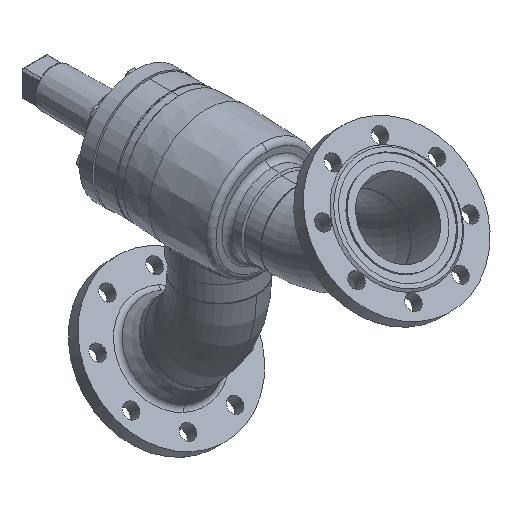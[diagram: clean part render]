
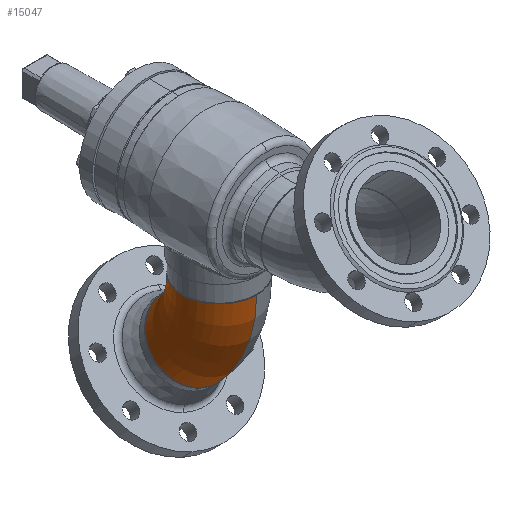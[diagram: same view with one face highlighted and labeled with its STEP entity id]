
A CAD part, isometric view. The second image highlights one B-rep face of the part: STEP entity #15047.
In plain terms, the highlighted toroidal (fillet/blend) face has major radius 152 mm and minor radius 57.15 mm.
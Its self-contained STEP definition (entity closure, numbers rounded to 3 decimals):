
#265 = CIRCLE ( 'NONE', #266, 57.15 ) ;
#266 = AXIS2_PLACEMENT_3D ( 'NONE', #267, #268, #269 ) ;
#267 = CARTESIAN_POINT ( 'NONE',  ( 0., 0., 0. ) ) ;
#268 = DIRECTION ( 'NONE',  ( 1., 0., 0. ) ) ;
#269 = DIRECTION ( 'NONE',  ( 0., 0., -1. ) ) ;
#17455 = CARTESIAN_POINT ( 'NONE',  ( 0., -57.15, 0. ) ) ;
#1073 = VERTEX_POINT ( 'NONE', #17455 ) ;
#1119 = CARTESIAN_POINT ( 'NONE',  ( 0., 57.15, 0. ) ) ;
#1256 = EDGE_CURVE ( 'NONE', #13378, #1073, #18106, .T. ) ;
#1339 = CIRCLE ( 'NONE', #1340, 209.15 ) ;
#1340 = AXIS2_PLACEMENT_3D ( 'NONE', #1341, #1342, #1343 ) ;
#1341 = CARTESIAN_POINT ( 'NONE',  ( 0., -152., 0. ) ) ;
#1342 = DIRECTION ( 'NONE',  ( 0., 0., 1. ) ) ;
#1343 = DIRECTION ( 'NONE',  ( 1., 0., 0. ) ) ;
#1632 = ORIENTED_EDGE ( 'NONE', *, *, #1256, .F. ) ;
#18106 = CIRCLE ( 'NONE', #18107, 94.85 ) ;
#18107 = AXIS2_PLACEMENT_3D ( 'NONE', #18108, #18109, #18110 ) ;
#18108 = CARTESIAN_POINT ( 'NONE',  ( 0., -152., 0. ) ) ;
#18109 = DIRECTION ( 'NONE',  ( 0., 0., 1. ) ) ;
#18110 = DIRECTION ( 'NONE',  ( 1., 0., 0. ) ) ;
#5631 = CARTESIAN_POINT ( 'NONE',  ( 67.069, -84.931, 0. ) ) ;
#5832 = CARTESIAN_POINT ( 'NONE',  ( 147.891, -4.109, 0. ) ) ;
#6142 = CIRCLE ( 'NONE', #6143, 57.15 ) ;
#6143 = AXIS2_PLACEMENT_3D ( 'NONE', #6144, #6145, #6146 ) ;
#6144 = CARTESIAN_POINT ( 'NONE',  ( 107.48, -44.52, 0. ) ) ;
#6145 = DIRECTION ( 'NONE',  ( 0.707, -0.707, 0. ) ) ;
#6146 = DIRECTION ( 'NONE',  ( 0., 0., -1. ) ) ;
#9606 = FACE_OUTER_BOUND ( 'NONE', #14876, .T. ) ;
#9607 = TOROIDAL_SURFACE ( 'NONE', #9608, 152., 57.15 ) ;
#9608 = AXIS2_PLACEMENT_3D ( 'NONE', #9609, #9610, #9611 ) ;
#9609 = CARTESIAN_POINT ( 'NONE',  ( 0., -152., 0. ) ) ;
#9610 = DIRECTION ( 'NONE',  ( 0., 0., 1. ) ) ;
#9611 = DIRECTION ( 'NONE',  ( 1., 0., 0. ) ) ;
#11367 = EDGE_CURVE ( 'NONE', #12261, #1073, #265, .T. ) ;
#11740 = ORIENTED_EDGE ( 'NONE', *, *, #11367, .T. ) ;
#12261 = VERTEX_POINT ( 'NONE', #1119 ) ;
#12485 = EDGE_CURVE ( 'NONE', #13600, #12261, #1339, .T. ) ;
#12855 = ORIENTED_EDGE ( 'NONE', *, *, #12485, .T. ) ;
#13378 = VERTEX_POINT ( 'NONE', #5631 ) ;
#13600 = VERTEX_POINT ( 'NONE', #5832 ) ;
#13826 = EDGE_CURVE ( 'NONE', #13600, #13378, #6142, .T. ) ;
#14196 = ORIENTED_EDGE ( 'NONE', *, *, #13826, .F. ) ;
#14876 = EDGE_LOOP ( 'NONE', ( #14196, #12855, #11740, #1632 ) ) ;
#15047 = ADVANCED_FACE ( 'NONE', ( #9606 ), #9607, .T. ) ;
